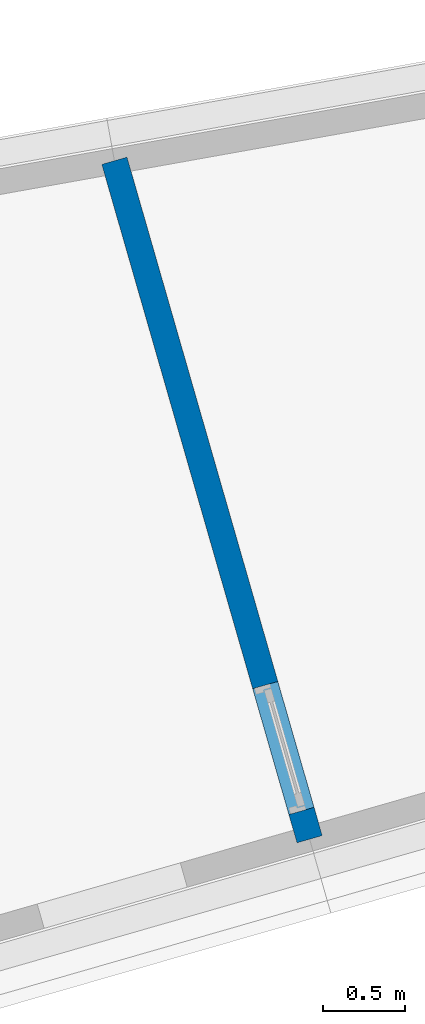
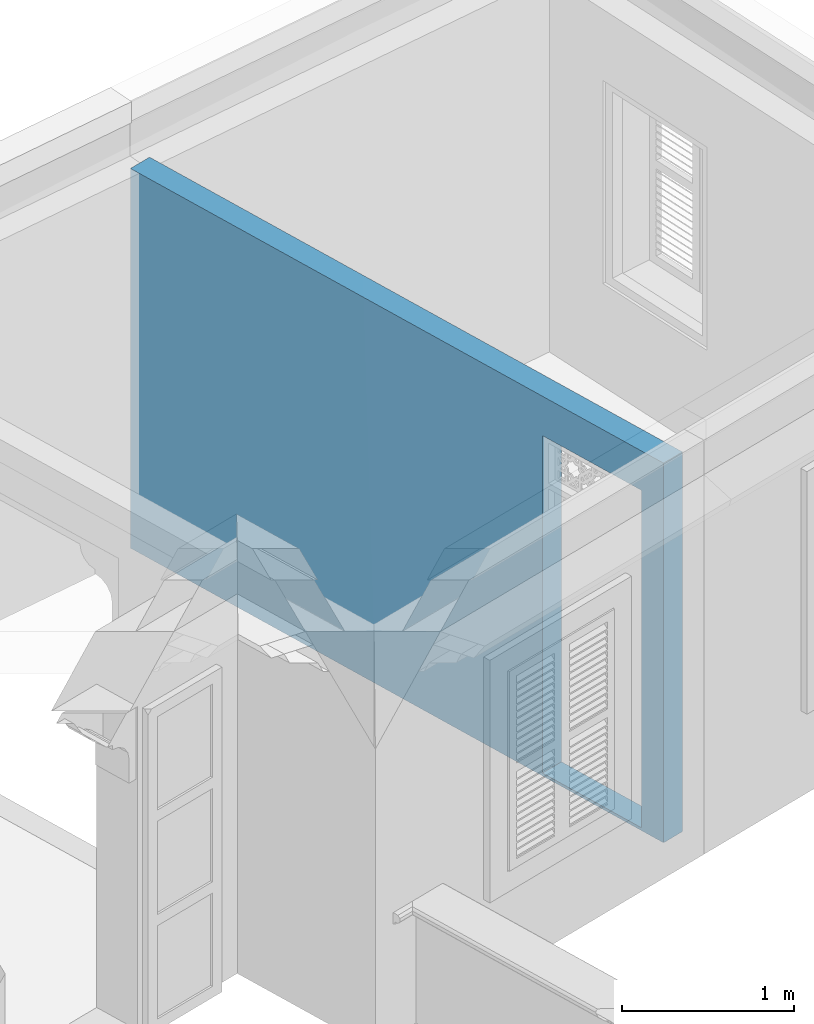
# One storey, part 17 of 22: 1 wall, 1 opening.
"""IFC4 building model written with IfcOpenShell, lengths in metres."""

from ifc_helpers import new_model, si_unit, frame, origin_with_axes, place, context, subcontext, project, spatial, polyline, outline, extrude, material, layer, layer_set, layer_usage, type_object, element, save


model = new_model("IFC4")

# Units and contexts
model_context = context("Model", 3, world=origin_with_axes())
body_context = subcontext(model_context, "Body", "Model", "MODEL_VIEW")
ifc_project = project(units=[si_unit("PLANEANGLEUNIT", "RADIAN"), si_unit("MASSUNIT", "GRAM", prefix="KILO"), si_unit("FORCEUNIT", "NEWTON", prefix="KILO"), si_unit("LENGTHUNIT", "METRE"), si_unit("AREAUNIT", "SQUARE_METRE"), si_unit("VOLUMEUNIT", "CUBIC_METRE")], contexts=[model_context, model_context])

# Site, building, storey
site_placement = place(None, origin_with_axes())
site = spatial("IfcSite", under=ifc_project, at=site_placement, Name="Site plot-9", CompositionType="ELEMENT")
building_placement = place(None, origin_with_axes())
building = spatial("IfcBuilding", under=site, at=building_placement, Name="Building plot-9", CompositionType="ELEMENT")
storey_placement = place(None, frame((0.0, 0.0, 2.85), z_axis=(0.0, 0.0, 1.0), x_axis=(1.0, 0.0, 0.0)))
storey = spatial("IfcBuildingStorey", under=building, at=storey_placement, Name="plot-9 1", CompositionType="ELEMENT", Elevation=2.85)

# Wall, opening
ifc_material = material(Name="Masonry")
ifc_layer = layer(ifc_material, 0.16, ventilated=False)
ifc_layer_set = layer_set([ifc_layer], Name="interior_0.08_0.08")
ifc_layer_usage = layer_usage(ifc_layer_set, "AXIS2", "POSITIVE", -0.08)
wall_type = type_object("IfcWallType", Name="interior_0.08_0.08", PredefinedType="SOLIDWALL", material=ifc_layer_set)
wall_placement = place(storey_placement, frame((-17.5470391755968, 8.52317158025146, 0.0), z_axis=(0.0, 0.0, 1.0), x_axis=(0.276523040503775, -0.961007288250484, 0.0)))
wall = element("IfcWall", 1, at=wall_placement, inside=storey, type_object=wall_type, material=ifc_layer_usage, Name="interior", context=body_context, shape_type="SweptSolid", body=[
    extrude(outline(polyline([(-7.94461990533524e-16, 0.0800000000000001), (7.66901247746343e-16, -0.0800000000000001), (4.31408590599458, -0.0800000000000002), (4.31408590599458, 0.0800000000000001), (-7.94461990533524e-16, 0.0800000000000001)])), origin_with_axes(), (0.0, 0.0, 1.0), 2.7),
])
opening_placement = place(wall_placement, frame((3.33408590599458, 0.0, 0.02)))
element("IfcOpeningElement", 2, at=opening_placement, cuts=wall, Name="My Opening", ObjectType="Opening", context=body_context, shape_type="SweptSolid", body=[
    extrude(outline(polyline([(0.0, -0.100000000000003), (0.800000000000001, -0.100000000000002), (0.800000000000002, 1.1), (8.88178419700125e-16, 1.1), (0.0, -0.100000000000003)])), origin_with_axes(), (0.0, 0.0, 1.0), 2.4),
])

save(model, "model.ifc")
